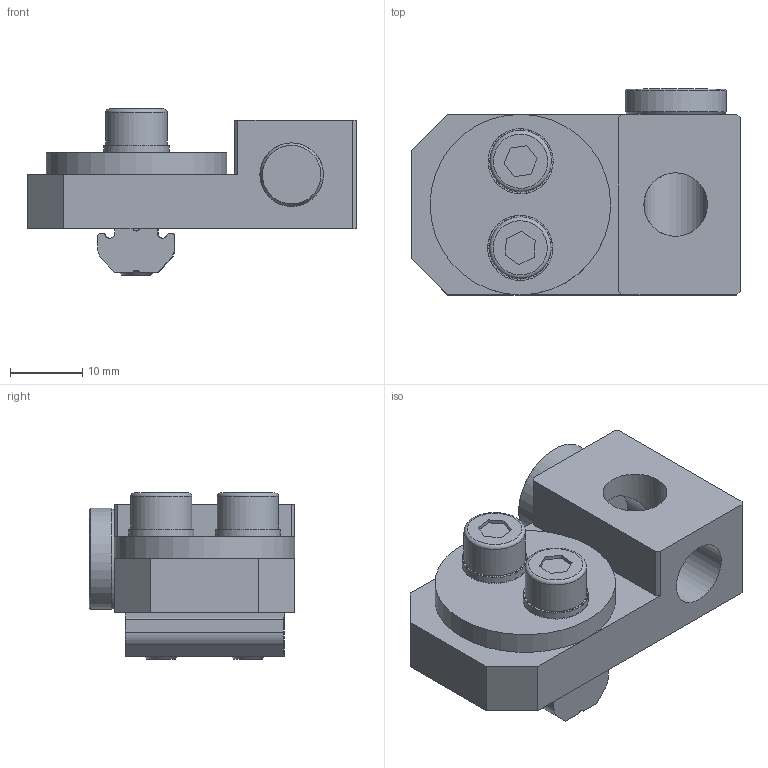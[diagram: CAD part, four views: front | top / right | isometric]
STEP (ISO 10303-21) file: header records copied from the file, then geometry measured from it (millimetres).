
FILE_DESCRIPTION(('STEP AP214'),'1');
FILE_NAME('CA.WSD.X.18.18.stp','2019-02-28T11:06:32',(' '),(' '),'Spatial InterOp 3D',' ',' ');
FILE_SCHEMA(('AUTOMOTIVE_DESIGN { 1 0 10303 214 1 1 1 1 }'));
Length unit declared in the file: millimetre
Products named in the file (8): CA.WSD.X.18.18; WSD.X.18.18; WST.20.1; R.5.SCH; CA.GWP.5.12; GWP.5.12; V.TCE5x18; CA.08.14.014
Assembly tree (9 placements, depth 3):
  CA.WSD.X.18.18
    WSD.X.18.18
    WST.20.1
    R.5.SCH  x2
    CA.GWP.5.12
      GWP.5.12
    V.TCE5x18  x2
    CA.08.14.014
Bounding box: 45.5 x 28.5 x 23 mm (x, y, z)
Volume: 13146.2 mm3; surface area: 8960.4 mm2
Topology: 6 solids, 8 shells, 495 faces, 1431 edges, 948 vertices
Faces by surface type: plane 449, cylinder 33, cone 8, torus 5
Full cylindrical faces by diameter (mm): 4.5 x2, 5 x2, 5.1 x1, 5.2 x2, 5.3 x2, 8.2 x1, 8.5 x2, 8.8 x2, 9 x2, 9.728 x1, 14 x1, 19.9 x1, 20.1 x1, 25 x1
Entity records: 11786 total; most frequent: CARTESIAN_POINT 1767, DIRECTION 1611, ORIENTED_EDGE 1562, EDGE_CURVE 781, AXIS2_PLACEMENT_3D 553, VERTEX_POINT 533, LINE 505, VECTOR 505
